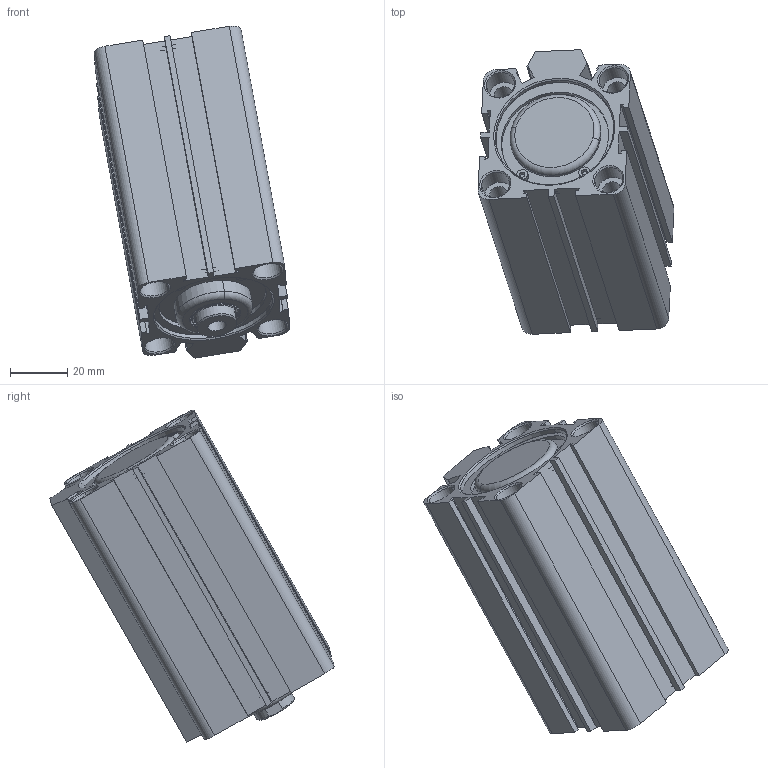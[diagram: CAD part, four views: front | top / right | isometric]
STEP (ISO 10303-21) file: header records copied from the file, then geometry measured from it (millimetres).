
FILE_DESCRIPTION (( 'STEP AP214' ), '1' );
FILE_NAME ('SDA_40_60_WEB.STEP', '2021-01-22T12:15:43', ( 'cagdas' ), ( '' ), 'SwSTEP 2.0', 'SolidWorks 2021', '' );
FILE_SCHEMA (( 'AUTOMOTIVE_DESIGN' ));
Length unit declared in the file: millimetre
Products named in the file (8): SDA_40_BORU_WEB; SDA40BOGAZKECESI; SDA40SEGMAN; 16_MIL_WEB; SDA40ONKAPAK; SDA_40_60_WEB; SDA40PAPYUZUK; SDA40ARKAKAPAK
Assembly tree (8 placements, depth 2):
  SDA_40_60_WEB
    SDA40ARKAKAPAK
    SDA40SEGMAN  x2
    SDA40ONKAPAK
    SDA40PAPYUZUK
    SDA40BOGAZKECESI
    SDA_40_BORU_WEB
    16_MIL_WEB
Bounding box: 68.33 x 99.14 x 115.8 mm (x, y, z)
Volume: 133682.3 mm3; surface area: 66442.6 mm2
Topology: 8 solids, 8 shells, 474 faces, 1175 edges, 758 vertices
Faces by surface type: plane 185, cylinder 128, bspline 85, cone 72, torus 4
Entity records: 19871 total; most frequent: CARTESIAN_POINT 7117, ORIENTED_EDGE 2254, DIRECTION 2025, EDGE_CURVE 1127, VERTEX_POINT 726, AXIS2_PLACEMENT_3D 698, VECTOR 629, LINE 629
